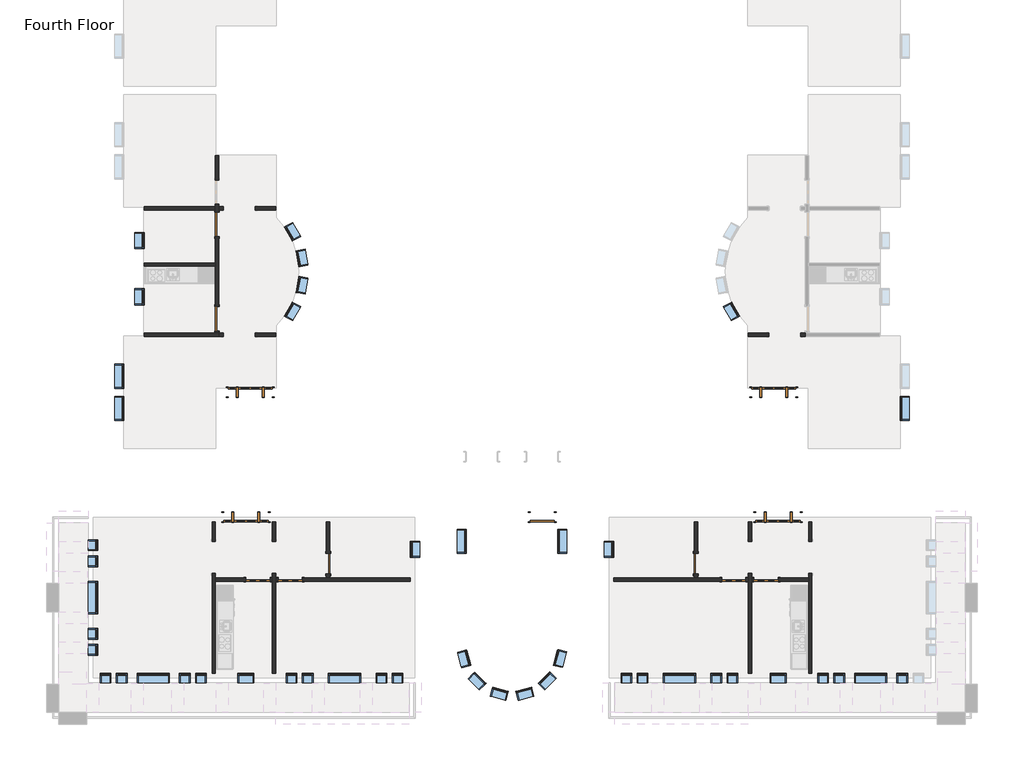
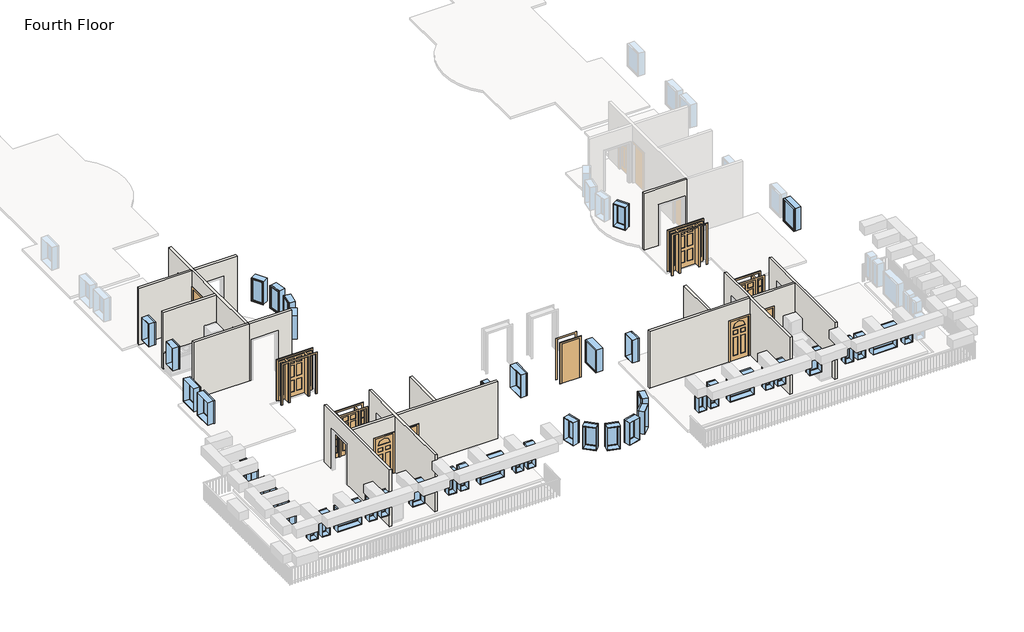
# One storey, part 1 of 5: 46 windows, 17 walls, 13 doors.
"""IFC4 building model written with IfcOpenShell, lengths in millimetres."""

from ifc_helpers import new_model, si_unit, frame, origin, place, context, project, spatial, polyline, outline, extrude, faceted_brep, transform, mapped, element, save
from components import door_829da954, door_2e3b4da2, door_4d6c7550, door_e36758a9, door_a1797ceb, door_a3eb833a, door_cc5399a4, door_dba5aa2e, door_ffdb1193, window_da97879f, window_d61ef850, window_60baf983, window_ed80354a, window_15c49d37, window_0e2fc6ce, window_6eb97611, window_d89bf842

model = new_model("IFC4")

# Units and contexts
model_context = context("Model", 3, world=origin())
ifc_project = project(units=[si_unit("LENGTHUNIT", "METRE", prefix="MILLI")], contexts=[model_context])

# Site, building, storey
site = spatial("IfcSite", under=ifc_project)
building = spatial("IfcBuilding", under=site)
storey = spatial("IfcBuildingStorey", under=building, Name="Fourth Floor", Elevation=9144.0)

# Doors
placement = place(None, origin())
door_shape = door_829da954(model_context)
element("IfcDoor", 1, ObjectType="Single-Decorative 2 : 36\" x 84\"", at=placement, inside=storey, context=model_context, shape_type="MappedRepresentation", body=[
    mapped(door_shape, transform((-6669.0589563, -30331.8808133, 9144.0), x_axis=(1.0, 0.0, 0.0), y_axis=(0.0, 1.0, 0.0), z_axis=(0.0, 0.0, 1.0))),
])
element("IfcDoor", 2, ObjectType="Single-Decorative 2 : 36\" x 84\"", at=placement, inside=storey, context=model_context, shape_type="MappedRepresentation", body=[
    mapped(door_shape, transform((-24674.4839563, -30331.8808133, 9144.0), x_axis=(1.0, 0.0, 0.0), y_axis=(0.0, 1.0, 0.0), z_axis=(0.0, 0.0, 1.0))),
])
door_2_shape = door_2e3b4da2(model_context)
element("IfcDoor", 3, ObjectType="Single-Decorative 2 : 36\" x 84\"", at=placement, inside=storey, context=model_context, shape_type="MappedRepresentation", body=[
    mapped(door_2_shape, transform((-5449.8589563, -30331.8808133, 9144.0), x_axis=(-1.0, 0.0, 0.0), y_axis=(0.0, -1.0, 0.0), z_axis=(0.0, 0.0, 1.0))),
])
element("IfcDoor", 4, ObjectType="Single-Decorative 2 : 36\" x 84\"", at=placement, inside=storey, context=model_context, shape_type="MappedRepresentation", body=[
    mapped(door_2_shape, transform((-23455.2839563, -30331.8808133, 9144.0), x_axis=(-1.0, 0.0, 0.0), y_axis=(0.0, -1.0, 0.0), z_axis=(0.0, 0.0, 1.0))),
])
door_3_shape = door_4d6c7550(model_context)
element("IfcDoor", 5, ObjectType="Single-Flush : 30\" x 84\"", at=placement, inside=storey, context=model_context, shape_type="MappedRepresentation", body=[
    mapped(door_3_shape, transform((-22018.5964563, -29722.2808133, 9144.0), x_axis=(0.0, -1.0, 0.0), y_axis=(1.0, 0.0, 0.0), z_axis=(0.0, 0.0, 1.0))),
])
door_4_shape = door_e36758a9(model_context)
element("IfcDoor", 6, ObjectType="Single-Flush : 30\" x 84\"", at=placement, inside=storey, context=model_context, shape_type="MappedRepresentation", body=[
    mapped(door_4_shape, transform((-8105.7464563, -29722.2808133, 9144.0), x_axis=(0.0, -1.0, 0.0), y_axis=(1.0, 0.0, 0.0), z_axis=(0.0, 0.0, 1.0))),
])
door_5_shape = door_a1797ceb(model_context)
element("IfcDoor", 7, ObjectType="Single-Flush : 36\" x 84\"", at=placement, inside=storey, context=model_context, shape_type="MappedRepresentation", body=[
    mapped(door_5_shape, transform((-26223.8839563, -16873.0558133, 9144.0), x_axis=(0.0, 1.0, 0.0), y_axis=(-1.0, 0.0, 0.0), z_axis=(0.0, 0.0, 1.0))),
])
door_6_shape = door_a3eb833a(model_context)
element("IfcDoor", 8, ObjectType="Single-Flush : 36\" x 84\"", at=placement, inside=storey, context=model_context, shape_type="MappedRepresentation", body=[
    mapped(door_6_shape, transform((-26223.8839563, -20451.2808133, 9144.0), x_axis=(0.0, -1.0, 0.0), y_axis=(1.0, 0.0, 0.0), z_axis=(0.0, 0.0, 1.0))),
])
door_7_shape = door_cc5399a4(model_context)
element("IfcDoor", 9, ObjectType="Single-Flush : 36\" x 84\"", at=placement, inside=storey, context=model_context, shape_type="MappedRepresentation", body=[
    mapped(door_7_shape, transform((-13919.1714563, -27958.5683133, 9144.0), x_axis=(1.0, 0.0, 0.0), y_axis=(0.0, 1.0, 0.0), z_axis=(0.0, 0.0, 1.0))),
])
door_8_shape = door_dba5aa2e(model_context)
element("IfcDoor", 10, ObjectType="Single-Raised Panel with Sidelights : 36\" x 84\"", at=placement, inside=storey, context=model_context, shape_type="MappedRepresentation", body=[
    mapped(door_8_shape, transform((-5156.1714563, -23234.1683133, 9144.0), x_axis=(-1.0, 0.0, 0.0), y_axis=(0.0, -1.0, 0.0), z_axis=(0.0, 0.0, 1.0))),
])
element("IfcDoor", 11, ObjectType="Single-Raised Panel with Sidelights : 36\" x 84\"", at=placement, inside=storey, context=model_context, shape_type="MappedRepresentation", body=[
    mapped(door_8_shape, transform((-25131.6839563, -27958.5683133, 9144.0), x_axis=(1.0, 0.0, 0.0), y_axis=(0.0, 1.0, 0.0), z_axis=(0.0, 0.0, 1.0))),
])
door_9_shape = door_ffdb1193(model_context)
element("IfcDoor", 12, ObjectType="Single-Raised Panel with Sidelights : 36\" x 84\"", at=placement, inside=storey, context=model_context, shape_type="MappedRepresentation", body=[
    mapped(door_9_shape, transform((-4992.6589563, -27958.5683133, 9144.0), x_axis=(-1.0, 0.0, 0.0), y_axis=(0.0, -1.0, 0.0), z_axis=(0.0, 0.0, 1.0))),
])
element("IfcDoor", 13, ObjectType="Single-Raised Panel with Sidelights : 36\" x 84\"", at=placement, inside=storey, context=model_context, shape_type="MappedRepresentation", body=[
    mapped(door_9_shape, transform((-24968.1714563, -23234.1683133, 9144.0), x_axis=(1.0, 0.0, 0.0), y_axis=(0.0, 1.0, 0.0), z_axis=(0.0, 0.0, 1.0))),
])

# Walls
element("IfcWall", 14, ObjectType="Interior - 5\" Partition (2-hr)", at=placement, inside=storey, context=model_context, shape_type="Brep", body=[
    faceted_brep([(-3709.9589563, -33878.3558133, 9144.0), (-3709.9589563, -30092.1683133, 9144.0), (-3709.9589563, -30092.1683133, 11277.6), (-3709.9589563, -28872.9683133, 11277.6), (-3709.9589563, -28872.9683133, 9144.0), (-3709.9589563, -28134.7808133, 9144.0), (-3709.9589563, -28134.7808133, 12192.0), (-3709.9589563, -33878.3558133, 12192.0), (-3836.9589563, -30092.1683133, 11277.6), (-3836.9589563, -30092.1683133, 9144.0), (-3836.9589563, -30268.3808133, 9144.0), (-3836.9589563, -30395.3808133, 9144.0), (-3836.9589563, -33878.3558133, 9144.0), (-3836.9589563, -33878.3558133, 12192.0), (-3836.9589563, -30395.3808133, 12192.0), (-3836.9589563, -30268.3808133, 12192.0), (-3836.9589563, -28134.7808133, 12192.0), (-3836.9589563, -28134.7808133, 9144.0), (-3836.9589563, -28872.9683133, 9144.0), (-3836.9589563, -28872.9683133, 11277.6)], [[[0, 1, 2, 3, 4, 5, 6, 7]], [[8, 9, 10, 11, 12, 13, 14, 15, 16, 17, 18, 19]], [[12, 11, 10, 9, 1, 0]], [[18, 17, 5, 4]], [[7, 6, 16, 15, 14, 13]], [[0, 7, 13, 12]], [[6, 5, 17, 16]], [[4, 3, 19, 18]], [[2, 1, 9, 8]], [[3, 2, 8, 19]]]),
])
element("IfcWall", 15, ObjectType="Interior - 5\" Partition (2-hr)", at=placement, inside=storey, context=model_context, shape_type="Brep", body=[
    faceted_brep([(-5995.9589563, -28872.9683133, 11277.6), (-5995.9589563, -28872.9683133, 9144.0), (-5995.9589563, -28134.7808133, 9144.0), (-5995.9589563, -28134.7808133, 12192.0), (-5995.9589563, -30268.3808133, 12192.0), (-5995.9589563, -30395.3808133, 12192.0), (-5995.9589563, -33878.3558133, 12192.0), (-5995.9589563, -33878.3558133, 9144.0), (-5995.9589563, -30395.3808133, 9144.0), (-5995.9589563, -30268.3808133, 9144.0), (-5995.9589563, -30092.1683133, 9144.0), (-5995.9589563, -30092.1683133, 11277.6), (-6122.9589563, -28134.7808133, 9144.0), (-6122.9589563, -28872.9683133, 9144.0), (-6122.9589563, -28872.9683133, 11277.6), (-6122.9589563, -30092.1683133, 11277.6), (-6122.9589563, -30092.1683133, 9144.0), (-6122.9589563, -30268.3808133, 9144.0), (-6122.9589563, -30395.3808133, 9144.0), (-6122.9589563, -33878.3558133, 9144.0), (-6122.9589563, -33878.3558133, 12192.0), (-6122.9589563, -30395.3808133, 12192.0), (-6122.9589563, -30268.3808133, 12192.0), (-6122.9589563, -28134.7808133, 12192.0)], [[[0, 1, 2, 3, 4, 5, 6, 7, 8, 9, 10, 11]], [[12, 13, 14, 15, 16, 17, 18, 19, 20, 21, 22, 23]], [[2, 1, 13, 12]], [[10, 9, 8, 7, 19, 18, 17, 16]], [[6, 5, 4, 3, 23, 22, 21, 20]], [[7, 6, 20, 19]], [[3, 2, 12, 23]], [[16, 15, 11, 10]], [[14, 13, 1, 0]], [[15, 14, 0, 11]]]),
])
element("IfcWall", 16, ObjectType="Interior - 5\" Partition (2-hr)", at=placement, inside=storey, context=model_context, shape_type="Brep", body=[
    faceted_brep([(-6211.8589563, -30395.3808133, 11277.6), (-6211.8589563, -30395.3808133, 9144.0), (-6122.9589563, -30395.3808133, 9144.0), (-6122.9589563, -30395.3808133, 12192.0), (-11217.2464563, -30395.3808133, 12192.0), (-11217.2464563, -30395.3808133, 9144.0), (-7126.2589563, -30395.3808133, 9144.0), (-7126.2589563, -30395.3808133, 11277.6), (-6122.9589563, -30268.3808133, 9144.0), (-6211.8589563, -30268.3808133, 9144.0), (-6211.8589563, -30268.3808133, 11277.6), (-7126.2589563, -30268.3808133, 11277.6), (-7126.2589563, -30268.3808133, 9144.0), (-8042.2464563, -30268.3808133, 9144.0), (-8169.2464563, -30268.3808133, 9144.0), (-11217.2464563, -30268.3808133, 9144.0), (-11217.2464563, -30268.3808133, 12192.0), (-8169.2464563, -30268.3808133, 12192.0), (-8042.2464563, -30268.3808133, 12192.0), (-6122.9589563, -30268.3808133, 12192.0)], [[[0, 1, 2, 3, 4, 5, 6, 7]], [[8, 9, 10, 11, 12, 13, 14, 15, 16, 17, 18, 19]], [[2, 1, 9, 8]], [[6, 5, 15, 14, 13, 12]], [[4, 3, 19, 18, 17, 16]], [[3, 2, 8, 19]], [[5, 4, 16, 15]], [[10, 9, 1, 0]], [[11, 10, 0, 7]], [[12, 11, 7, 6]]]),
])
element("IfcWall", 17, ObjectType="Interior - 5\" Partition (2-hr)", at=placement, inside=storey, context=model_context, shape_type="SweptSolid", body=[
    extrude(outline(polyline([(-30103.2808133, 11277.6), (-30103.2808133, 9144.0), (-30268.3808133, 9144.0), (-30268.3808133, 12192.0), (-28134.7808133, 12192.0), (-28134.7808133, 9144.0), (-29341.2808133, 9144.0), (-29341.2808133, 11277.6), (-30103.2808133, 11277.6)])), frame((-8169.2464563, 0.0, 0.0), z_axis=(1.0, 0.0, 0.0), x_axis=(0.0, 1.0, 0.0)), (0.0, 0.0, 1.0), 127.0),
])
element("IfcWall", 18, ObjectType="Interior - 5\" Partition (2-hr)", at=placement, inside=storey, context=model_context, shape_type="SweptSolid", body=[
    extrude(outline(polyline([(9144.0, -5995.9589563), (9144.0, -5907.0589563), (11277.6, -5907.0589563), (11277.6, -4992.6589563), (9144.0, -4992.6589563), (9144.0, -3836.9589563), (12192.0, -3836.9589563), (12192.0, -5995.9589563), (9144.0, -5995.9589563)])), frame((0.0, -30395.3808133, 0.0), z_axis=(0.0, 1.0, 0.0), x_axis=(0.0, 0.0, 1.0)), (0.0, 0.0, 1.0), 127.0),
])
element("IfcWall", 19, ObjectType="Interior - 5\" Partition (2-hr)", at=placement, inside=storey, context=model_context, shape_type="SweptSolid", body=[
    extrude(outline(polyline([(11277.6, -4129.0589563), (9144.0, -4129.0589563), (9144.0, -3963.9589563), (12192.0, -3963.9589563), (12192.0, -6122.9589563), (9144.0, -6122.9589563), (9144.0, -5348.2589563), (11277.6, -5348.2589563), (11277.6, -4129.0589563)])), frame((0.0, -21124.3808133, 0.0), z_axis=(0.0, 1.0, 0.0), x_axis=(0.0, 0.0, 1.0)), (0.0, 0.0, 1.0), 127.0),
])
element("IfcWall", 20, ObjectType="Interior - 5\" Partition (2-hr)", at=placement, inside=storey, context=model_context, shape_type="Brep", body=[
    faceted_brep([(-26287.3839563, -33878.3558133, 9144.0), (-26287.3839563, -30395.3808133, 9144.0), (-26287.3839563, -30268.3808133, 9144.0), (-26287.3839563, -30092.1683133, 9144.0), (-26287.3839563, -30092.1683133, 11277.6), (-26287.3839563, -28872.9683133, 11277.6), (-26287.3839563, -28872.9683133, 9144.0), (-26287.3839563, -28134.7808133, 9144.0), (-26287.3839563, -28134.7808133, 12192.0), (-26287.3839563, -30268.3808133, 12192.0), (-26287.3839563, -30395.3808133, 12192.0), (-26287.3839563, -33878.3558133, 12192.0), (-26414.3839563, -30092.1683133, 11277.6), (-26414.3839563, -30092.1683133, 9144.0), (-26414.3839563, -33878.3558133, 9144.0), (-26414.3839563, -33878.3558133, 12192.0), (-26414.3839563, -28134.7808133, 12192.0), (-26414.3839563, -28134.7808133, 9144.0), (-26414.3839563, -28872.9683133, 9144.0), (-26414.3839563, -28872.9683133, 11277.6)], [[[0, 1, 2, 3, 4, 5, 6, 7, 8, 9, 10, 11]], [[12, 13, 14, 15, 16, 17, 18, 19]], [[14, 13, 3, 2, 1, 0]], [[18, 17, 7, 6]], [[11, 10, 9, 8, 16, 15]], [[0, 11, 15, 14]], [[8, 7, 17, 16]], [[6, 5, 19, 18]], [[4, 3, 13, 12]], [[5, 4, 12, 19]]]),
])
element("IfcWall", 21, ObjectType="Interior - 5\" Partition (2-hr)", at=placement, inside=storey, context=model_context, shape_type="Brep", body=[
    faceted_brep([(-24001.3839563, -28872.9683133, 11277.6), (-24001.3839563, -28872.9683133, 9144.0), (-24001.3839563, -28134.7808133, 9144.0), (-24001.3839563, -28134.7808133, 12192.0), (-24001.3839563, -30268.3808133, 12192.0), (-24001.3839563, -30395.3808133, 12192.0), (-24001.3839563, -33878.3558133, 12192.0), (-24001.3839563, -33878.3558133, 9144.0), (-24001.3839563, -30395.3808133, 9144.0), (-24001.3839563, -30268.3808133, 9144.0), (-24001.3839563, -30092.1683133, 9144.0), (-24001.3839563, -30092.1683133, 11277.6), (-24128.3839563, -28134.7808133, 9144.0), (-24128.3839563, -28872.9683133, 9144.0), (-24128.3839563, -28872.9683133, 11277.6), (-24128.3839563, -30092.1683133, 11277.6), (-24128.3839563, -30092.1683133, 9144.0), (-24128.3839563, -30268.3808133, 9144.0), (-24128.3839563, -30395.3808133, 9144.0), (-24128.3839563, -33878.3558133, 9144.0), (-24128.3839563, -33878.3558133, 12192.0), (-24128.3839563, -30395.3808133, 12192.0), (-24128.3839563, -30268.3808133, 12192.0), (-24128.3839563, -28134.7808133, 12192.0)], [[[0, 1, 2, 3, 4, 5, 6, 7, 8, 9, 10, 11]], [[12, 13, 14, 15, 16, 17, 18, 19, 20, 21, 22, 23]], [[2, 1, 13, 12]], [[10, 9, 8, 7, 19, 18, 17, 16]], [[6, 5, 4, 3, 23, 22, 21, 20]], [[7, 6, 20, 19]], [[3, 2, 12, 23]], [[16, 15, 11, 10]], [[14, 13, 1, 0]], [[15, 14, 0, 11]]]),
])
element("IfcWall", 22, ObjectType="Interior - 5\" Partition (2-hr)", at=placement, inside=storey, context=model_context, shape_type="Brep", body=[
    faceted_brep([(-23912.4839563, -30268.3808133, 11277.6), (-23912.4839563, -30268.3808133, 9144.0), (-24001.3839563, -30268.3808133, 9144.0), (-24001.3839563, -30268.3808133, 12192.0), (-22082.0964563, -30268.3808133, 12192.0), (-21955.0964563, -30268.3808133, 12192.0), (-18907.0964563, -30268.3808133, 12192.0), (-18907.0964563, -30268.3808133, 9144.0), (-21955.0964563, -30268.3808133, 9144.0), (-22082.0964563, -30268.3808133, 9144.0), (-22998.0839563, -30268.3808133, 9144.0), (-22998.0839563, -30268.3808133, 11277.6), (-24001.3839563, -30395.3808133, 9144.0), (-23912.4839563, -30395.3808133, 9144.0), (-23912.4839563, -30395.3808133, 11277.6), (-22998.0839563, -30395.3808133, 11277.6), (-22998.0839563, -30395.3808133, 9144.0), (-18907.0964563, -30395.3808133, 9144.0), (-18907.0964563, -30395.3808133, 12192.0), (-24001.3839563, -30395.3808133, 12192.0)], [[[0, 1, 2, 3, 4, 5, 6, 7, 8, 9, 10, 11]], [[12, 13, 14, 15, 16, 17, 18, 19]], [[2, 1, 13, 12]], [[10, 9, 8, 7, 17, 16]], [[6, 5, 4, 3, 19, 18]], [[3, 2, 12, 19]], [[7, 6, 18, 17]], [[14, 13, 1, 0]], [[15, 14, 0, 11]], [[16, 15, 11, 10]]]),
])
element("IfcWall", 23, ObjectType="Interior - 5\" Partition (2-hr)", at=placement, inside=storey, context=model_context, shape_type="SweptSolid", body=[
    extrude(outline(polyline([(-30103.2808133, 11277.6), (-30103.2808133, 9144.0), (-30268.3808133, 9144.0), (-30268.3808133, 12192.0), (-28134.7808133, 12192.0), (-28134.7808133, 9144.0), (-29341.2808133, 9144.0), (-29341.2808133, 11277.6), (-30103.2808133, 11277.6)])), frame((-22082.0964563, 0.0, 0.0), z_axis=(1.0, 0.0, 0.0), x_axis=(0.0, 1.0, 0.0)), (0.0, 0.0, 1.0), 127.0),
])
element("IfcWall", 24, ObjectType="Interior - 5\" Partition (2-hr)", at=placement, inside=storey, context=model_context, shape_type="SweptSolid", body=[
    extrude(outline(polyline([(11277.6, -24217.2839563), (9144.0, -24217.2839563), (9144.0, -24128.3839563), (12192.0, -24128.3839563), (12192.0, -26287.3839563), (9144.0, -26287.3839563), (9144.0, -25131.6839563), (11277.6, -25131.6839563), (11277.6, -24217.2839563)])), frame((0.0, -30395.3808133, 0.0), z_axis=(0.0, 1.0, 0.0), x_axis=(0.0, 0.0, 1.0)), (0.0, 0.0, 1.0), 127.0),
])
element("IfcWall", 25, ObjectType="Interior - 5\" Partition (2-hr)", at=placement, inside=storey, context=model_context, shape_type="Brep", body=[
    faceted_brep([(-28982.9589563, -21124.3808133, 9144.0), (-26160.3839563, -21124.3808133, 9144.0), (-26160.3839563, -21124.3808133, 12192.0), (-28982.9589563, -21124.3808133, 12192.0), (-28982.9589563, -20997.3808133, 9144.0), (-28982.9589563, -20997.3808133, 12192.0), (-26287.3839563, -20997.3808133, 12192.0), (-26160.3839563, -20997.3808133, 12192.0), (-26160.3839563, -20997.3808133, 9144.0), (-26287.3839563, -20997.3808133, 9144.0)], [[[0, 1, 2, 3]], [[4, 5, 6, 7, 8, 9]], [[1, 0, 4, 9, 8]], [[3, 2, 7, 6, 5]], [[2, 1, 8, 7]], [[0, 3, 5, 4]]]),
])
element("IfcWall", 26, ObjectType="Interior - 5\" Partition (2-hr)", at=placement, inside=storey, context=model_context, shape_type="Brep", body=[
    faceted_brep([(-26287.3839563, -16111.0558133, 11277.6), (-26287.3839563, -16111.0558133, 9144.0), (-26287.3839563, -16199.9558133, 9144.0), (-26287.3839563, -16326.9558133, 9144.0), (-26287.3839563, -16415.8558133, 9144.0), (-26287.3839563, -16415.8558133, 11277.6), (-26287.3839563, -17330.2558133, 11277.6), (-26287.3839563, -17330.2558133, 9144.0), (-26287.3839563, -18333.5558133, 9144.0), (-26287.3839563, -18460.5558133, 9144.0), (-26287.3839563, -19994.0808133, 9144.0), (-26287.3839563, -19994.0808133, 11277.6), (-26287.3839563, -20908.4808133, 11277.6), (-26287.3839563, -20908.4808133, 9144.0), (-26287.3839563, -20997.3808133, 9144.0), (-26287.3839563, -20997.3808133, 12192.0), (-26287.3839563, -18460.5558133, 12192.0), (-26287.3839563, -18333.5558133, 12192.0), (-26287.3839563, -16326.9558133, 12192.0), (-26287.3839563, -16199.9558133, 12192.0), (-26287.3839563, -14266.3808133, 12192.0), (-26287.3839563, -14266.3808133, 9144.0), (-26287.3839563, -15196.6558133, 9144.0), (-26287.3839563, -15196.6558133, 11277.6), (-26160.3839563, -16415.8558133, 9144.0), (-26160.3839563, -16326.9558133, 9144.0), (-26160.3839563, -16199.9558133, 9144.0), (-26160.3839563, -16111.0558133, 9144.0), (-26160.3839563, -16111.0558133, 11277.6), (-26160.3839563, -15196.6558133, 11277.6), (-26160.3839563, -15196.6558133, 9144.0), (-26160.3839563, -14266.3808133, 9144.0), (-26160.3839563, -14266.3808133, 12192.0), (-26160.3839563, -16199.9558133, 12192.0), (-26160.3839563, -16326.9558133, 12192.0), (-26160.3839563, -20997.3808133, 12192.0), (-26160.3839563, -20997.3808133, 9144.0), (-26160.3839563, -20908.4808133, 9144.0), (-26160.3839563, -20908.4808133, 11277.6), (-26160.3839563, -19994.0808133, 11277.6), (-26160.3839563, -19994.0808133, 9144.0), (-26160.3839563, -17330.2558133, 9144.0), (-26160.3839563, -17330.2558133, 11277.6), (-26160.3839563, -16415.8558133, 11277.6)], [[[0, 1, 2, 3, 4, 5, 6, 7, 8, 9, 10, 11, 12, 13, 14, 15, 16, 17, 18, 19, 20, 21, 22, 23]], [[24, 25, 26, 27, 28, 29, 30, 31, 32, 33, 34, 35, 36, 37, 38, 39, 40, 41, 42, 43]], [[14, 13, 37, 36]], [[4, 3, 2, 1, 27, 26, 25, 24]], [[41, 40, 10, 9, 8, 7]], [[22, 21, 31, 30]], [[20, 19, 18, 17, 16, 15, 35, 34, 33, 32]], [[15, 14, 36, 35]], [[21, 20, 32, 31]], [[38, 37, 13, 12]], [[39, 38, 12, 11]], [[40, 39, 11, 10]], [[5, 4, 24, 43]], [[6, 5, 43, 42]], [[7, 6, 42, 41]], [[28, 27, 1, 0]], [[29, 28, 0, 23]], [[30, 29, 23, 22]]]),
])
element("IfcWall", 27, ObjectType="Interior - 5\" Partition (2-hr)", at=placement, inside=storey, context=model_context, shape_type="SweptSolid", body=[
    extrude(outline(polyline([(-26287.3839563, -16326.9558133), (-28982.9589563, -16326.9558133), (-28982.9589563, -16199.9558133), (-26287.3839563, -16199.9558133), (-26287.3839563, -16326.9558133)])), frame((0.0, 0.0, 9144.0), z_axis=(0.0, 0.0, 1.0), x_axis=(1.0, 0.0, 0.0)), (0.0, 0.0, 1.0), 3048.0),
])
element("IfcWall", 28, ObjectType="Interior - 5\" Partition (2-hr)", at=placement, inside=storey, context=model_context, shape_type="SweptSolid", body=[
    extrude(outline(polyline([(-28982.9589563, -18333.5558133), (-26287.3839563, -18333.5558133), (-26287.3839563, -18460.5558133), (-28982.9589563, -18460.5558133), (-28982.9589563, -18333.5558133)])), frame((0.0, 0.0, 9144.0), z_axis=(0.0, 0.0, 1.0), x_axis=(1.0, 0.0, 0.0)), (0.0, 0.0, 1.0), 3048.0),
])
element("IfcWall", 29, ObjectType="Interior - 5\" Partition (2-hr)", at=placement, inside=storey, context=model_context, shape_type="SweptSolid", body=[
    extrude(outline(polyline([(11277.6, -24776.0839563), (9144.0, -24776.0839563), (9144.0, -24001.3839563), (12192.0, -24001.3839563), (12192.0, -26160.3839563), (9144.0, -26160.3839563), (9144.0, -25995.2839563), (11277.6, -25995.2839563), (11277.6, -24776.0839563)])), frame((0.0, -16326.9558133, 0.0), z_axis=(0.0, 1.0, 0.0), x_axis=(0.0, 0.0, 1.0)), (0.0, 0.0, 1.0), 127.0),
])
element("IfcWall", 30, ObjectType="Interior - 5\" Partition (2-hr)", at=placement, inside=storey, context=model_context, shape_type="SweptSolid", body=[
    extrude(outline(polyline([(9144.0, -26160.3839563), (9144.0, -25995.2839563), (11277.6, -25995.2839563), (11277.6, -24776.0839563), (9144.0, -24776.0839563), (9144.0, -24001.3839563), (12192.0, -24001.3839563), (12192.0, -26160.3839563), (9144.0, -26160.3839563)])), frame((0.0, -21124.3808133, 0.0), z_axis=(0.0, 1.0, 0.0), x_axis=(0.0, 0.0, 1.0)), (0.0, 0.0, 1.0), 127.0),
])

# Windows
window_shape = window_da97879f(model_context)
element("IfcWindow", 31, ObjectType="Fixed : 16\" x 48\"", at=placement, inside=storey, context=model_context, shape_type="MappedRepresentation", body=[
    mapped(window_shape, transform((-6681.7589563, -34054.5683133, 9144.0), x_axis=(1.0, 0.0, 0.0), y_axis=(0.0, 1.0, 0.0), z_axis=(0.0, 0.0, 1.0))),
])
element("IfcWindow", 32, ObjectType="Fixed : 16\" x 48\"", at=placement, inside=storey, context=model_context, shape_type="MappedRepresentation", body=[
    mapped(window_shape, transform((-7291.3589563, -34054.5683133, 9144.0), x_axis=(1.0, 0.0, 0.0), y_axis=(0.0, 1.0, 0.0), z_axis=(0.0, 0.0, 1.0))),
])
element("IfcWindow", 33, ObjectType="Fixed : 16\" x 48\"", at=placement, inside=storey, context=model_context, shape_type="MappedRepresentation", body=[
    mapped(window_shape, transform((-255.5589563, -34054.5683133, 9144.0), x_axis=(1.0, 0.0, 0.0), y_axis=(0.0, 1.0, 0.0), z_axis=(0.0, 0.0, 1.0))),
])
element("IfcWindow", 34, ObjectType="Fixed : 16\" x 48\"", at=placement, inside=storey, context=model_context, shape_type="MappedRepresentation", body=[
    mapped(window_shape, transform((-19353.1839563, -34054.5683133, 9144.0), x_axis=(1.0, 0.0, 0.0), y_axis=(0.0, 1.0, 0.0), z_axis=(0.0, 0.0, 1.0))),
])
element("IfcWindow", 35, ObjectType="Fixed : 16\" x 48\"", at=placement, inside=storey, context=model_context, shape_type="MappedRepresentation", body=[
    mapped(window_shape, transform((-19962.7839563, -34054.5683133, 9144.0), x_axis=(1.0, 0.0, 0.0), y_axis=(0.0, 1.0, 0.0), z_axis=(0.0, 0.0, 1.0))),
])
element("IfcWindow", 36, ObjectType="Fixed : 16\" x 48\"", at=placement, inside=storey, context=model_context, shape_type="MappedRepresentation", body=[
    mapped(window_shape, transform((-26795.3839563, -34054.5683133, 9144.0), x_axis=(1.0, 0.0, 0.0), y_axis=(0.0, 1.0, 0.0), z_axis=(0.0, 0.0, 1.0))),
])
element("IfcWindow", 37, ObjectType="Fixed : 16\" x 48\"", at=placement, inside=storey, context=model_context, shape_type="MappedRepresentation", body=[
    mapped(window_shape, transform((-27404.9839563, -34054.5683133, 9144.0), x_axis=(1.0, 0.0, 0.0), y_axis=(0.0, 1.0, 0.0), z_axis=(0.0, 0.0, 1.0))),
])
element("IfcWindow", 38, ObjectType="Fixed : 16\" x 48\"", at=placement, inside=storey, context=model_context, shape_type="MappedRepresentation", body=[
    mapped(window_shape, transform((-30922.8839563, -33025.8683133, 9144.0), x_axis=(0.0, -1.0, 0.0), y_axis=(1.0, 0.0, 0.0), z_axis=(0.0, 0.0, 1.0))),
])
element("IfcWindow", 39, ObjectType="Fixed : 16\" x 48\"", at=placement, inside=storey, context=model_context, shape_type="MappedRepresentation", body=[
    mapped(window_shape, transform((-30922.8839563, -32416.2683133, 9144.0), x_axis=(0.0, -1.0, 0.0), y_axis=(1.0, 0.0, 0.0), z_axis=(0.0, 0.0, 1.0))),
])
window_2_shape = window_d61ef850(model_context)
element("IfcWindow", 40, ObjectType="Fixed : 16\" x 48\"", at=placement, inside=storey, context=model_context, shape_type="MappedRepresentation", body=[
    mapped(window_2_shape, transform((-10771.1589563, -34054.5683133, 9144.0), x_axis=(-1.0, 0.0, 0.0), y_axis=(0.0, -1.0, 0.0), z_axis=(0.0, 0.0, 1.0))),
])
element("IfcWindow", 41, ObjectType="Fixed : 16\" x 48\"", at=placement, inside=storey, context=model_context, shape_type="MappedRepresentation", body=[
    mapped(window_2_shape, transform((-10161.5589563, -34054.5683133, 9144.0), x_axis=(-1.0, 0.0, 0.0), y_axis=(0.0, -1.0, 0.0), z_axis=(0.0, 0.0, 1.0))),
])
element("IfcWindow", 42, ObjectType="Fixed : 16\" x 48\"", at=placement, inside=storey, context=model_context, shape_type="MappedRepresentation", body=[
    mapped(window_2_shape, transform((-3328.9589563, -34054.5683133, 9144.0), x_axis=(-1.0, 0.0, 0.0), y_axis=(0.0, -1.0, 0.0), z_axis=(0.0, 0.0, 1.0))),
])
element("IfcWindow", 43, ObjectType="Fixed : 16\" x 48\"", at=placement, inside=storey, context=model_context, shape_type="MappedRepresentation", body=[
    mapped(window_2_shape, transform((-2719.3589563, -34054.5683133, 9144.0), x_axis=(-1.0, 0.0, 0.0), y_axis=(0.0, -1.0, 0.0), z_axis=(0.0, 0.0, 1.0))),
])
element("IfcWindow", 44, ObjectType="Fixed : 16\" x 48\"", at=placement, inside=storey, context=model_context, shape_type="MappedRepresentation", body=[
    mapped(window_2_shape, transform((-23442.5839563, -34054.5683133, 9144.0), x_axis=(-1.0, 0.0, 0.0), y_axis=(0.0, -1.0, 0.0), z_axis=(0.0, 0.0, 1.0))),
])
element("IfcWindow", 45, ObjectType="Fixed : 16\" x 48\"", at=placement, inside=storey, context=model_context, shape_type="MappedRepresentation", body=[
    mapped(window_2_shape, transform((-22832.9839563, -34054.5683133, 9144.0), x_axis=(-1.0, 0.0, 0.0), y_axis=(0.0, -1.0, 0.0), z_axis=(0.0, 0.0, 1.0))),
])
element("IfcWindow", 46, ObjectType="Fixed : 16\" x 48\"", at=placement, inside=storey, context=model_context, shape_type="MappedRepresentation", body=[
    mapped(window_2_shape, transform((-30478.3839563, -34054.5683133, 9144.0), x_axis=(-1.0, 0.0, 0.0), y_axis=(0.0, -1.0, 0.0), z_axis=(0.0, 0.0, 1.0))),
])
element("IfcWindow", 47, ObjectType="Fixed : 16\" x 48\"", at=placement, inside=storey, context=model_context, shape_type="MappedRepresentation", body=[
    mapped(window_2_shape, transform((-29868.7839563, -34054.5683133, 9144.0), x_axis=(-1.0, 0.0, 0.0), y_axis=(0.0, -1.0, 0.0), z_axis=(0.0, 0.0, 1.0))),
])
element("IfcWindow", 48, ObjectType="Fixed : 16\" x 48\"", at=placement, inside=storey, context=model_context, shape_type="MappedRepresentation", body=[
    mapped(window_2_shape, transform((-30922.8839563, -28987.2683133, 9144.0), x_axis=(0.0, 1.0, 0.0), y_axis=(-1.0, 0.0, 0.0), z_axis=(0.0, 0.0, 1.0))),
])
element("IfcWindow", 49, ObjectType="Fixed : 16\" x 48\"", at=placement, inside=storey, context=model_context, shape_type="MappedRepresentation", body=[
    mapped(window_2_shape, transform((-30922.8839563, -29596.8683133, 9144.0), x_axis=(0.0, 1.0, 0.0), y_axis=(-1.0, 0.0, 0.0), z_axis=(0.0, 0.0, 1.0))),
])
window_3_shape = window_60baf983(model_context)
element("IfcWindow", 50, ObjectType="Fixed : 24\" x 48\"", at=placement, inside=storey, context=model_context, shape_type="MappedRepresentation", body=[
    mapped(window_3_shape, transform((-25093.5839563, -34054.5683133, 9144.0), x_axis=(1.0, 0.0, 0.0), y_axis=(0.0, 1.0, 0.0), z_axis=(0.0, 0.0, 1.0))),
])
element("IfcWindow", 51, ObjectType="Fixed : 24\" x 48\"", at=placement, inside=storey, context=model_context, shape_type="MappedRepresentation", body=[
    mapped(window_3_shape, transform((-18730.8839563, -29139.6683133, 9144.0), x_axis=(0.0, 1.0, 0.0), y_axis=(-1.0, 0.0, 0.0), z_axis=(0.0, 0.0, 1.0))),
])
element("IfcWindow", 52, ObjectType="Fixed : 24\" x 48\"", at=placement, inside=storey, context=model_context, shape_type="MappedRepresentation", body=[
    mapped(window_3_shape, transform((-23349.1961911, -20134.3150929, 9144.0), x_axis=(0.49619108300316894, 0.8682133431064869, 0.0), y_axis=(-0.8682133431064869, 0.49619108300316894, 0.0), z_axis=(0.0, 0.0, 1.0))),
])
element("IfcWindow", 53, ObjectType="Fixed : 24\" x 48\"", at=placement, inside=storey, context=model_context, shape_type="MappedRepresentation", body=[
    mapped(window_3_shape, transform((-23005.8677992, -19139.5143296, 9144.0), x_axis=(0.16973229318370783, 0.9854902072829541, 0.0), y_axis=(-0.9854902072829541, 0.16973229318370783, 0.0), z_axis=(0.0, 0.0, 1.0))),
])
window_4_shape = window_ed80354a(model_context)
element("IfcWindow", 54, ObjectType="Fixed : 24\" x 48\"", at=placement, inside=storey, context=model_context, shape_type="MappedRepresentation", body=[
    mapped(window_4_shape, transform((-5030.7589563, -34054.5683133, 9144.0), x_axis=(-1.0, 0.0, 0.0), y_axis=(0.0, -1.0, 0.0), z_axis=(0.0, 0.0, 1.0))),
])
element("IfcWindow", 55, ObjectType="Fixed : 24\" x 48\"", at=placement, inside=storey, context=model_context, shape_type="MappedRepresentation", body=[
    mapped(window_4_shape, transform((-11393.4589563, -29139.6683133, 9144.0), x_axis=(0.0, 1.0, 0.0), y_axis=(-1.0, 0.0, 0.0), z_axis=(0.0, 0.0, 1.0))),
])
element("IfcWindow", 56, ObjectType="Fixed : 24\" x 48\"", at=placement, inside=storey, context=model_context, shape_type="MappedRepresentation", body=[
    mapped(window_4_shape, transform((-16884.5848795, -33290.1635131, 9144.0), x_axis=(-0.2617614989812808, 0.9651325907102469, 0.0), y_axis=(-0.9651325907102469, -0.2617614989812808, 0.0), z_axis=(0.0, 0.0, 1.0))),
])
element("IfcWindow", 57, ObjectType="Fixed : 24\" x 48\"", at=placement, inside=storey, context=model_context, shape_type="MappedRepresentation", body=[
    mapped(window_4_shape, transform((-16413.0301771, -34140.4392215, 9144.0), x_axis=(-0.7092584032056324, 0.7049485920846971, 0.0), y_axis=(-0.7049485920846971, -0.7092584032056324, 0.0), z_axis=(0.0, 0.0, 1.0))),
])
element("IfcWindow", 58, ObjectType="Fixed : 24\" x 48\"", at=placement, inside=storey, context=model_context, shape_type="MappedRepresentation", body=[
    mapped(window_4_shape, transform((-15579.5139714, -34641.0222339, 9144.0), x_axis=(-0.9667100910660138, 0.2558741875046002, 0.0), y_axis=(-0.2558741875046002, -0.9667100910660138, 0.0), z_axis=(0.0, 0.0, 1.0))),
])
element("IfcWindow", 59, ObjectType="Fixed : 24\" x 48\"", at=placement, inside=storey, context=model_context, shape_type="MappedRepresentation", body=[
    mapped(window_4_shape, transform((-14607.3762565, -34657.7817365, 9144.0), x_axis=(-0.9651325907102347, -0.2617614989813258, 0.0), y_axis=(0.2617614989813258, -0.9651325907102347, 0.0), z_axis=(0.0, 0.0, 1.0))),
])
element("IfcWindow", 60, ObjectType="Fixed : 24\" x 48\"", at=placement, inside=storey, context=model_context, shape_type="MappedRepresentation", body=[
    mapped(window_4_shape, transform((-13757.1005482, -34186.2270341, 9144.0), x_axis=(-0.704948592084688, -0.7092584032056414, 0.0), y_axis=(0.7092584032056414, -0.704948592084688, 0.0), z_axis=(0.0, 0.0, 1.0))),
])
element("IfcWindow", 61, ObjectType="Fixed : 24\" x 48\"", at=placement, inside=storey, context=model_context, shape_type="MappedRepresentation", body=[
    mapped(window_4_shape, transform((-13256.5175357, -33352.7108284, 9144.0), x_axis=(-0.25587418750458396, -0.9667100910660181, 0.0), y_axis=(0.9667100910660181, -0.25587418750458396, 0.0), z_axis=(0.0, 0.0, 1.0))),
])
element("IfcWindow", 62, ObjectType="Fixed : 24\" x 48\"", at=placement, inside=storey, context=model_context, shape_type="MappedRepresentation", body=[
    mapped(window_4_shape, transform((-6773.5999888, -20133.4311225, 9144.0), x_axis=(-0.4961910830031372, 0.868213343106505, 0.0), y_axis=(-0.868213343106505, -0.4961910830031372, 0.0), z_axis=(0.0, 0.0, 1.0))),
])
element("IfcWindow", 63, ObjectType="Fixed : 24\" x 48\"", at=placement, inside=storey, context=model_context, shape_type="MappedRepresentation", body=[
    mapped(window_4_shape, transform((-29159.1714563, -19578.1558133, 9144.0), x_axis=(0.0, 1.0, 0.0), y_axis=(-1.0, 0.0, 0.0), z_axis=(0.0, 0.0, 1.0))),
])
element("IfcWindow", 64, ObjectType="Fixed : 24\" x 48\"", at=placement, inside=storey, context=model_context, shape_type="MappedRepresentation", body=[
    mapped(window_4_shape, transform((-29159.1714563, -17444.5558133, 9144.0), x_axis=(0.0, 1.0, 0.0), y_axis=(-1.0, 0.0, 0.0), z_axis=(0.0, 0.0, 1.0))),
])
element("IfcWindow", 65, ObjectType="Fixed : 24\" x 48\"", at=placement, inside=storey, context=model_context, shape_type="MappedRepresentation", body=[
    mapped(window_4_shape, transform((-23349.1961911, -17190.0215337, 9144.0), x_axis=(0.4961910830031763, -0.8682133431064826, 0.0), y_axis=(0.8682133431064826, 0.4961910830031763, 0.0), z_axis=(0.0, 0.0, 1.0))),
])
element("IfcWindow", 66, ObjectType="Fixed : 24\" x 48\"", at=placement, inside=storey, context=model_context, shape_type="MappedRepresentation", body=[
    mapped(window_4_shape, transform((-23005.8677992, -18184.822297, 9144.0), x_axis=(0.16973229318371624, -0.9854902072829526, 0.0), y_axis=(0.9854902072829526, 0.16973229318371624, 0.0), z_axis=(0.0, 0.0, 1.0))),
])
window_5_shape = window_15c49d37(model_context)
element("IfcWindow", 67, ObjectType="Fixed : 36\" x 48\"", at=placement, inside=storey, context=model_context, shape_type="MappedRepresentation", body=[
    mapped(window_5_shape, transform((-203.1714563, -23805.6683133, 9144.0), x_axis=(0.0, 1.0, 0.0), y_axis=(-1.0, 0.0, 0.0), z_axis=(0.0, 0.0, 1.0))),
])
window_6_shape = window_0e2fc6ce(model_context)
element("IfcWindow", 68, ObjectType="Fixed : 36\" x 48\"", at=placement, inside=storey, context=model_context, shape_type="MappedRepresentation", body=[
    mapped(window_6_shape, transform((-16967.1714563, -28834.8683133, 9144.0), x_axis=(0.0, 1.0, 0.0), y_axis=(-1.0, 0.0, 0.0), z_axis=(0.0, 0.0, 1.0))),
])
element("IfcWindow", 69, ObjectType="Fixed : 36\" x 48\"", at=placement, inside=storey, context=model_context, shape_type="MappedRepresentation", body=[
    mapped(window_6_shape, transform((-13157.1714563, -28911.0683133, 9144.0), x_axis=(0.0, -1.0, 0.0), y_axis=(1.0, 0.0, 0.0), z_axis=(0.0, 0.0, 1.0))),
])
element("IfcWindow", 70, ObjectType="Fixed : 36\" x 48\"", at=placement, inside=storey, context=model_context, shape_type="MappedRepresentation", body=[
    mapped(window_6_shape, transform((-29921.1714563, -23805.6683133, 9144.0), x_axis=(0.0, 1.0, 0.0), y_axis=(-1.0, 0.0, 0.0), z_axis=(0.0, 0.0, 1.0))),
])
element("IfcWindow", 71, ObjectType="Fixed : 36\" x 48\"", at=placement, inside=storey, context=model_context, shape_type="MappedRepresentation", body=[
    mapped(window_6_shape, transform((-29921.1714563, -22586.4683133, 9144.0), x_axis=(0.0, 1.0, 0.0), y_axis=(-1.0, 0.0, 0.0), z_axis=(0.0, 0.0, 1.0))),
])
window_7_shape = window_6eb97611(model_context)
element("IfcWindow", 72, ObjectType="Fixed : 48\" x 48\"", at=placement, inside=storey, context=model_context, shape_type="MappedRepresentation", body=[
    mapped(window_7_shape, transform((-21359.7839563, -34054.5683133, 9144.0), x_axis=(1.0, 0.0, 0.0), y_axis=(0.0, 1.0, 0.0), z_axis=(0.0, 0.0, 1.0))),
])
element("IfcWindow", 73, ObjectType="Fixed : 48\" x 48\"", at=placement, inside=storey, context=model_context, shape_type="MappedRepresentation", body=[
    mapped(window_7_shape, transform((-28598.7839563, -34054.5683133, 9144.0), x_axis=(1.0, 0.0, 0.0), y_axis=(0.0, 1.0, 0.0), z_axis=(0.0, 0.0, 1.0))),
])
element("IfcWindow", 74, ObjectType="Fixed : 48\" x 48\"", at=placement, inside=storey, context=model_context, shape_type="MappedRepresentation", body=[
    mapped(window_7_shape, transform((-30922.8839563, -31044.6683133, 9144.0), x_axis=(0.0, -1.0, 0.0), y_axis=(1.0, 0.0, 0.0), z_axis=(0.0, 0.0, 1.0))),
])
window_8_shape = window_d89bf842(model_context)
element("IfcWindow", 75, ObjectType="Fixed : 48\" x 48\"", at=placement, inside=storey, context=model_context, shape_type="MappedRepresentation", body=[
    mapped(window_8_shape, transform((-8764.5589563, -34054.5683133, 9144.0), x_axis=(-1.0, 0.0, 0.0), y_axis=(0.0, -1.0, 0.0), z_axis=(0.0, 0.0, 1.0))),
])
element("IfcWindow", 76, ObjectType="Fixed : 48\" x 48\"", at=placement, inside=storey, context=model_context, shape_type="MappedRepresentation", body=[
    mapped(window_8_shape, transform((-1525.5589563, -34054.5683133, 9144.0), x_axis=(-1.0, 0.0, 0.0), y_axis=(0.0, -1.0, 0.0), z_axis=(0.0, 0.0, 1.0))),
])

save(model, "model.ifc")
